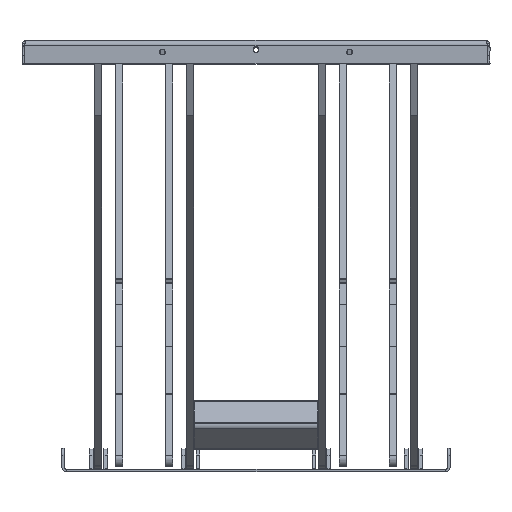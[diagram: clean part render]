
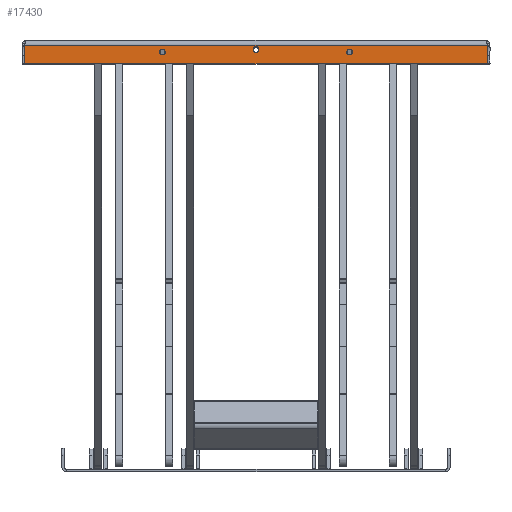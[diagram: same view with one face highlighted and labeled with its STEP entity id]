
A CAD part, front view. The second image highlights one B-rep face of the part: STEP entity #17430.
In plain terms, the highlighted planar face has unit normal (0, -1, 0.001) as drawn and (-1, 0, 0) by its records, which use the part's own axes.
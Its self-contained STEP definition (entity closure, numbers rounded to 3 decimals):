
#528=FACE_BOUND('',#3796,.T.);
#529=FACE_BOUND('',#3797,.T.);
#530=FACE_BOUND('',#3798,.T.);
#1271=CIRCLE('',#19167,1.);
#1273=CIRCLE('',#19170,1.);
#1274=CIRCLE('',#19171,1.);
#1275=CIRCLE('',#19172,1.);
#1276=CIRCLE('',#19173,6.25);
#1277=CIRCLE('',#19174,6.25);
#1278=CIRCLE('',#19175,6.25);
#2696=FACE_OUTER_BOUND('',#3795,.T.);
#3795=EDGE_LOOP('',(#14712,#14713,#14714,#14715,#14716,#14717,#14718,#14719,
#14720,#14721));
#3796=EDGE_LOOP('',(#14722));
#3797=EDGE_LOOP('',(#14723));
#3798=EDGE_LOOP('',(#14724));
#5210=LINE('',#28656,#6682);
#5211=LINE('',#28660,#6683);
#5212=LINE('',#28662,#6684);
#5213=LINE('',#28664,#6685);
#5214=LINE('',#28668,#6686);
#5215=LINE('',#28671,#6687);
#6682=VECTOR('',#23465,10.);
#6683=VECTOR('',#23468,10.);
#6684=VECTOR('',#23469,10.);
#6685=VECTOR('',#23470,10.);
#6686=VECTOR('',#23473,10.);
#6687=VECTOR('',#23476,10.);
#8276=VERTEX_POINT('',#28646);
#8277=VERTEX_POINT('',#28647);
#8280=VERTEX_POINT('',#28655);
#8281=VERTEX_POINT('',#28657);
#8282=VERTEX_POINT('',#28659);
#8283=VERTEX_POINT('',#28661);
#8284=VERTEX_POINT('',#28663);
#8285=VERTEX_POINT('',#28665);
#8286=VERTEX_POINT('',#28667);
#8287=VERTEX_POINT('',#28669);
#8288=VERTEX_POINT('',#28672);
#8289=VERTEX_POINT('',#28674);
#8290=VERTEX_POINT('',#28676);
#10543=EDGE_CURVE('',#8276,#8277,#1271,.T.);
#10547=EDGE_CURVE('',#8276,#8280,#5210,.T.);
#10548=EDGE_CURVE('',#8281,#8280,#1273,.T.);
#10549=EDGE_CURVE('',#8281,#8282,#5211,.T.);
#10550=EDGE_CURVE('',#8282,#8283,#5212,.T.);
#10551=EDGE_CURVE('',#8283,#8284,#5213,.T.);
#10552=EDGE_CURVE('',#8285,#8284,#1274,.T.);
#10553=EDGE_CURVE('',#8285,#8286,#5214,.T.);
#10554=EDGE_CURVE('',#8287,#8286,#1275,.T.);
#10555=EDGE_CURVE('',#8277,#8287,#5215,.T.);
#10556=EDGE_CURVE('',#8288,#8288,#1276,.T.);
#10557=EDGE_CURVE('',#8289,#8289,#1277,.T.);
#10558=EDGE_CURVE('',#8290,#8290,#1278,.T.);
#14712=ORIENTED_EDGE('',*,*,#10543,.F.);
#14713=ORIENTED_EDGE('',*,*,#10547,.T.);
#14714=ORIENTED_EDGE('',*,*,#10548,.F.);
#14715=ORIENTED_EDGE('',*,*,#10549,.T.);
#14716=ORIENTED_EDGE('',*,*,#10550,.T.);
#14717=ORIENTED_EDGE('',*,*,#10551,.T.);
#14718=ORIENTED_EDGE('',*,*,#10552,.F.);
#14719=ORIENTED_EDGE('',*,*,#10553,.T.);
#14720=ORIENTED_EDGE('',*,*,#10554,.F.);
#14721=ORIENTED_EDGE('',*,*,#10555,.F.);
#14722=ORIENTED_EDGE('',*,*,#10556,.T.);
#14723=ORIENTED_EDGE('',*,*,#10557,.T.);
#14724=ORIENTED_EDGE('',*,*,#10558,.T.);
#16718=PLANE('',#19169);
#17430=ADVANCED_FACE('',(#2696,#528,#529,#530),#16718,.F.);
#19167=AXIS2_PLACEMENT_3D('',#28648,#23457,#23458);
#19169=AXIS2_PLACEMENT_3D('',#28654,#23463,#23464);
#19170=AXIS2_PLACEMENT_3D('',#28658,#23466,#23467);
#19171=AXIS2_PLACEMENT_3D('',#28666,#23471,#23472);
#19172=AXIS2_PLACEMENT_3D('',#28670,#23474,#23475);
#19173=AXIS2_PLACEMENT_3D('',#28673,#23477,#23478);
#19174=AXIS2_PLACEMENT_3D('',#28675,#23479,#23480);
#19175=AXIS2_PLACEMENT_3D('',#28677,#23481,#23482);
#23457=DIRECTION('center_axis',(1.,0.,0.));
#23458=DIRECTION('ref_axis',(0.,0.707,0.707));
#23463=DIRECTION('center_axis',(1.,0.,0.));
#23464=DIRECTION('ref_axis',(0.,0.,-1.));
#23465=DIRECTION('',(0.,0.,-1.));
#23466=DIRECTION('center_axis',(1.,0.,0.));
#23467=DIRECTION('ref_axis',(0.,1.,-0.029));
#23468=DIRECTION('',(0.,-0.057,-0.998));
#23469=DIRECTION('',(0.,-1.,0.));
#23470=DIRECTION('',(0.,-0.057,0.998));
#23471=DIRECTION('center_axis',(1.,0.,0.));
#23472=DIRECTION('ref_axis',(0.,-1.,-0.029));
#23473=DIRECTION('',(0.,0.,1.));
#23474=DIRECTION('center_axis',(1.,0.,0.));
#23475=DIRECTION('ref_axis',(0.,-0.707,0.707));
#23476=DIRECTION('',(0.,-1.,0.));
#23477=DIRECTION('center_axis',(1.,0.,0.));
#23478=DIRECTION('ref_axis',(0.,0.,-1.));
#23479=DIRECTION('center_axis',(1.,0.,0.));
#23480=DIRECTION('ref_axis',(0.,0.,-1.));
#23481=DIRECTION('center_axis',(1.,0.,0.));
#23482=DIRECTION('ref_axis',(0.,0.,-1.));
#28646=CARTESIAN_POINT('',(-675.,494.89,49.));
#28647=CARTESIAN_POINT('',(-675.,493.89,50.));
#28648=CARTESIAN_POINT('Origin',(-675.,493.89,49.));
#28654=CARTESIAN_POINT('Origin',(-675.,0.,24.992));
#28655=CARTESIAN_POINT('',(-675.,494.89,24.608));
#28656=CARTESIAN_POINT('',(-675.,494.89,37.496));
#28657=CARTESIAN_POINT('',(-675.,494.888,24.551));
#28658=CARTESIAN_POINT('Origin',(-675.,493.89,24.608));
#28659=CARTESIAN_POINT('',(-675.,494.057,10.));
#28660=CARTESIAN_POINT('',(-675.,494.096,10.692));
#28661=CARTESIAN_POINT('',(-675.,-494.057,10.));
#28662=CARTESIAN_POINT('',(-675.,0.,10.));
#28663=CARTESIAN_POINT('',(-675.,-494.888,24.551));
#28664=CARTESIAN_POINT('',(-675.,-494.096,10.692));
#28665=CARTESIAN_POINT('',(-675.,-494.89,24.608));
#28666=CARTESIAN_POINT('Origin',(-675.,-493.89,24.608));
#28667=CARTESIAN_POINT('',(-675.,-494.89,49.));
#28668=CARTESIAN_POINT('',(-675.,-494.89,37.496));
#28669=CARTESIAN_POINT('',(-675.,-493.89,50.));
#28670=CARTESIAN_POINT('Origin',(-675.,-493.89,49.));
#28671=CARTESIAN_POINT('',(-675.,494.9,50.));
#28672=CARTESIAN_POINT('',(-675.,-200.,31.25));
#28673=CARTESIAN_POINT('Origin',(-675.,-200.,25.));
#28674=CARTESIAN_POINT('',(-675.,0.,26.25));
#28675=CARTESIAN_POINT('Origin',(-675.,0.,20.));
#28676=CARTESIAN_POINT('',(-675.,200.,31.25));
#28677=CARTESIAN_POINT('Origin',(-675.,200.,25.));
